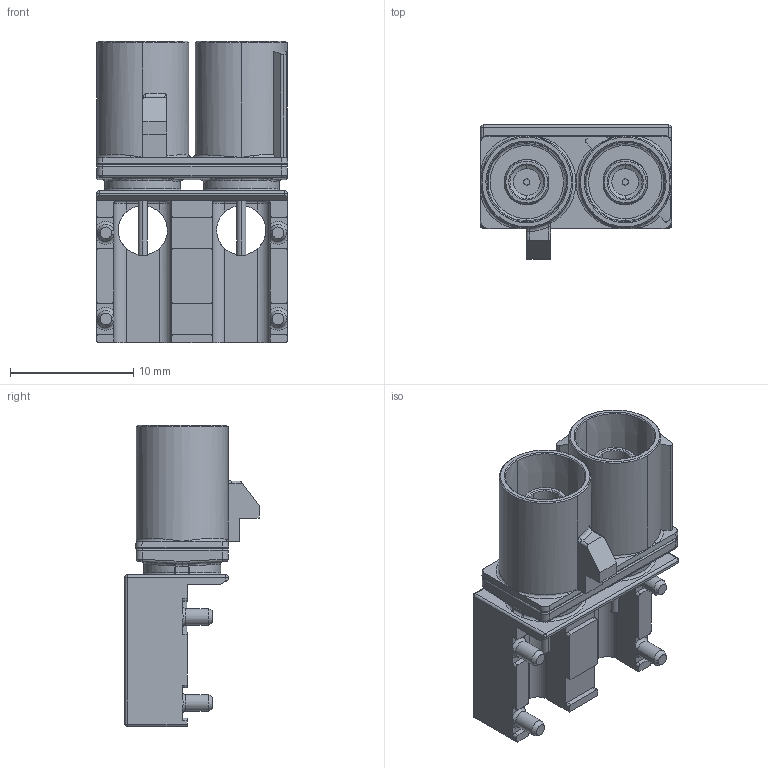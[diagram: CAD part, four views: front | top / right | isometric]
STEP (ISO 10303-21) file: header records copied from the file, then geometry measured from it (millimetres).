
FILE_DESCRIPTION((''),'2;1');
FILE_NAME('C-1-2287922-3','2016-11-10T',('workeradm'),('Tyco Electronics Ltd.'),'CREO PARAMETRIC BY PTC INC, 2016050','CREO PARAMETRIC BY PTC INC, 2016050','');
FILE_SCHEMA(('AUTOMOTIVE_DESIGN { 1 0 10303 214 1 1 1 1 }'));
Length unit declared in the file: millimetre
Products named in the file (1): C-1-2287922-3
Bounding box: 15.56 x 10.9 x 24.47 mm (x, y, z)
Volume: 1311.9 mm3; surface area: 2121 mm2
Topology: 1 solids, 1 shells, 387 faces, 973 edges, 595 vertices
Faces by surface type: cylinder 137, plane 102, bspline 71, torus 37, cone 34, sphere 6
Entity records: 18673 total; most frequent: CARTESIAN_POINT 9640, ORIENTED_EDGE 1942, DIRECTION 1777, EDGE_CURVE 971, AXIS2_PLACEMENT_3D 689, VERTEX_POINT 595, EDGE_LOOP 402, VECTOR 399
